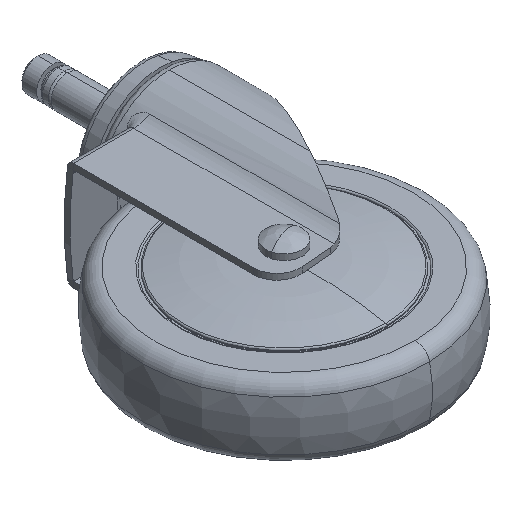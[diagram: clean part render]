
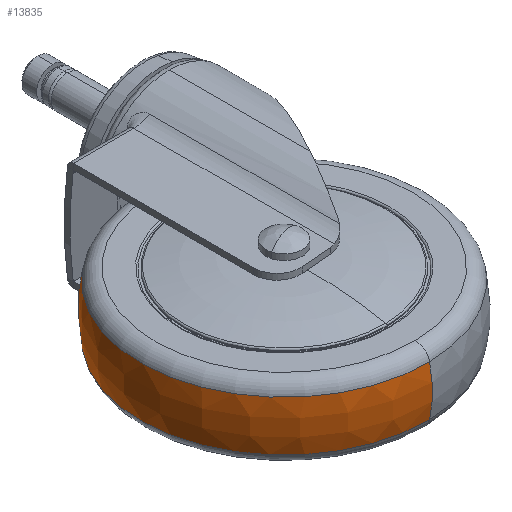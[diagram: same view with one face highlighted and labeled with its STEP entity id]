
A CAD part, isometric view. The second image highlights one B-rep face of the part: STEP entity #13835.
In plain terms, the highlighted toroidal (fillet/blend) face has major radius 10 mm and minor radius 40 mm.
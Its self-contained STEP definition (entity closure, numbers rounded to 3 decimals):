
#1121 = FACE_OUTER_BOUND ( 'NONE', #16610, .T. ) ;
#2660 = DIRECTION ( 'NONE',  ( 0., 1., 0. ) ) ;
#2904 = CARTESIAN_POINT ( 'NONE',  ( 0., 49.071, 8.571 ) ) ;
#6587 = AXIS2_PLACEMENT_3D ( 'NONE', #40365, #66741, #52997 ) ;
#7468 = AXIS2_PLACEMENT_3D ( 'NONE', #54197, #40446, #8587 ) ;
#8587 = DIRECTION ( 'NONE',  ( 0., 0., 1. ) ) ;
#8687 = CARTESIAN_POINT ( 'NONE',  ( 0., 49.071, -8.571 ) ) ;
#10115 = DIRECTION ( 'NONE',  ( 0., 0., -1. ) ) ;
#10525 = VERTEX_POINT ( 'NONE', #8687 ) ;
#11496 = ORIENTED_EDGE ( 'NONE', *, *, #14789, .T. ) ;
#13835 = ADVANCED_FACE ( 'NONE', ( #1121 ), #34975, .T. ) ;
#14789 = EDGE_CURVE ( 'NONE', #55348, #10525, #21616, .T. ) ;
#16610 = EDGE_LOOP ( 'NONE', ( #25250, #25326, #11496, #19475 ) ) ;
#19204 = EDGE_CURVE ( 'NONE', #26063, #10525, #62557, .T. ) ;
#19475 = ORIENTED_EDGE ( 'NONE', *, *, #19204, .F. ) ;
#21616 = CIRCLE ( 'NONE', #7468, 40. ) ;
#25250 = ORIENTED_EDGE ( 'NONE', *, *, #55352, .F. ) ;
#25326 = ORIENTED_EDGE ( 'NONE', *, *, #72479, .T. ) ;
#26063 = VERTEX_POINT ( 'NONE', #29405 ) ;
#28103 = CARTESIAN_POINT ( 'NONE',  ( 0., -49.071, 8.571 ) ) ;
#29277 = DIRECTION ( 'NONE',  ( 1., 0., 0. ) ) ;
#29405 = CARTESIAN_POINT ( 'NONE',  ( 0., -49.071, -8.571 ) ) ;
#29630 = CARTESIAN_POINT ( 'NONE',  ( 0., 0., 0. ) ) ;
#31778 = AXIS2_PLACEMENT_3D ( 'NONE', #61462, #73788, #2660 ) ;
#34975 = TOROIDAL_SURFACE ( 'NONE', #76267, 10., 40. ) ;
#35319 = CARTESIAN_POINT ( 'NONE',  ( 0., -10., 0. ) ) ;
#40017 = AXIS2_PLACEMENT_3D ( 'NONE', #35319, #29277, #48230 ) ;
#40365 = CARTESIAN_POINT ( 'NONE',  ( 0., 0., 8.571 ) ) ;
#40446 = DIRECTION ( 'NONE',  ( -1., 0., 0. ) ) ;
#48230 = DIRECTION ( 'NONE',  ( 0., 1., 0. ) ) ;
#52191 = CIRCLE ( 'NONE', #40017, 40. ) ;
#52997 = DIRECTION ( 'NONE',  ( 0., 1., 0. ) ) ;
#54197 = CARTESIAN_POINT ( 'NONE',  ( 0., 10., 0. ) ) ;
#55348 = VERTEX_POINT ( 'NONE', #2904 ) ;
#55352 = EDGE_CURVE ( 'NONE', #59867, #26063, #52191, .T. ) ;
#56021 = DIRECTION ( 'NONE',  ( 0., 1., 0. ) ) ;
#57077 = CIRCLE ( 'NONE', #6587, 49.071 ) ;
#59867 = VERTEX_POINT ( 'NONE', #28103 ) ;
#61462 = CARTESIAN_POINT ( 'NONE',  ( 0., 0., -8.571 ) ) ;
#62557 = CIRCLE ( 'NONE', #31778, 49.071 ) ;
#66741 = DIRECTION ( 'NONE',  ( 0., 0., -1. ) ) ;
#72479 = EDGE_CURVE ( 'NONE', #59867, #55348, #57077, .T. ) ;
#73788 = DIRECTION ( 'NONE',  ( 0., 0., -1. ) ) ;
#76267 = AXIS2_PLACEMENT_3D ( 'NONE', #29630, #10115, #56021 ) ;
